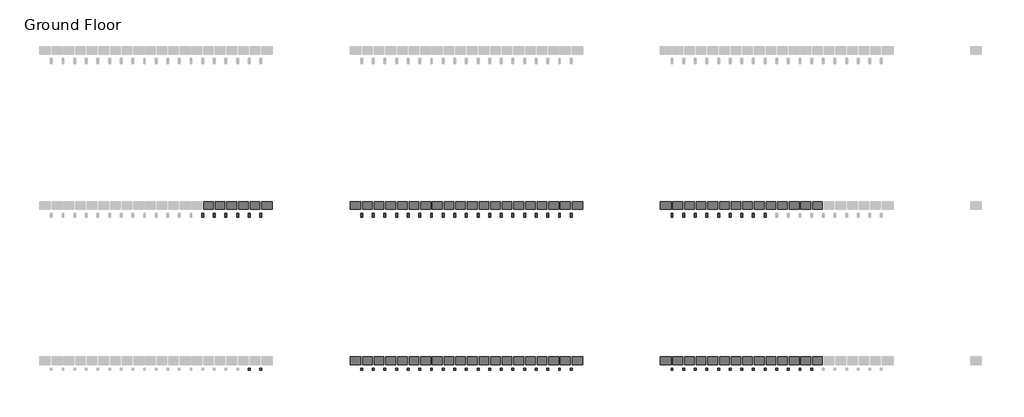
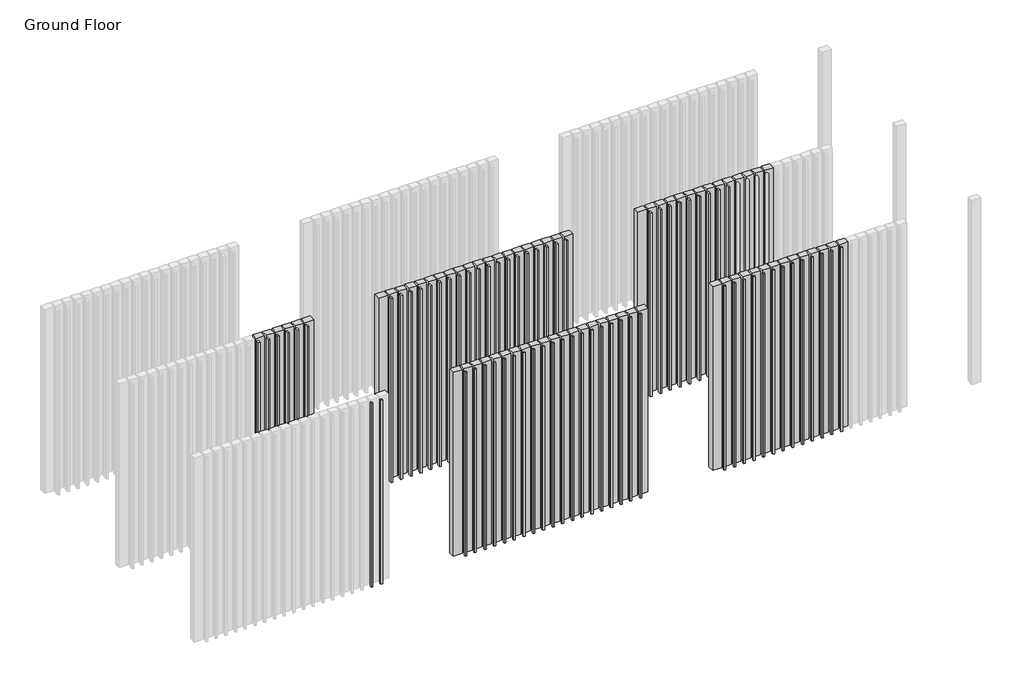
# One storey, part 2 of 350: 74 plates, 68 members.
"""IFC4 building model written with IfcOpenShell, lengths in millimetres."""

from ifc_helpers import new_model, si_unit, origin, place, context, project, spatial, transform, mapped, element, save
from components import rectangular_mullion_5535ef50, rectangular_mullion_ec047115, empty_system_panel_empty_db8e642d, empty_system_panel_empty_1b6afc67, empty_system_panel_empty_4d48d162

model = new_model("IFC4")

# Units and contexts
model_context = context("Model", 3, world=origin())
ifc_project = project(units=[si_unit("LENGTHUNIT", "METRE", prefix="MILLI")], contexts=[model_context])

# Site, building, storey
site = spatial("IfcSite", under=ifc_project)
building = spatial("IfcBuilding", under=site)
storey = spatial("IfcBuildingStorey", under=building, Name="Ground Floor", Elevation=0.0)

# Members
placement = place(None, origin())
rectangular_mullion_shape = rectangular_mullion_5535ef50(model_context)
element("IfcMember", 1, ObjectType="Rectangular Mullion : Batten_Aluminium_Modinex_AluBatten_25x50_Cedar", at=placement, inside=storey, context=model_context, shape_type="MappedRepresentation", body=[
    mapped(rectangular_mullion_shape, transform((8016.4361642, 6968.2978302, 0.0), x_axis=(1.0, 0.0, 0.0), y_axis=(0.0, -1.0, 0.0), z_axis=(0.0, 0.0, -1.0))),
])
element("IfcMember", 2, ObjectType="Rectangular Mullion : Batten_Aluminium_Modinex_AluBatten_25x50_Cedar", at=placement, inside=storey, context=model_context, shape_type="MappedRepresentation", body=[
    mapped(rectangular_mullion_shape, transform((8166.4361642, 6968.2978302, 0.0), x_axis=(1.0, 0.0, 0.0), y_axis=(0.0, -1.0, 0.0), z_axis=(0.0, 0.0, -1.0))),
])
element("IfcMember", 3, ObjectType="Rectangular Mullion : Batten_Aluminium_Modinex_AluBatten_25x50_Cedar", at=placement, inside=storey, context=model_context, shape_type="MappedRepresentation", body=[
    mapped(rectangular_mullion_shape, transform((8316.4361642, 6968.2978302, 0.0), x_axis=(1.0, 0.0, 0.0), y_axis=(0.0, -1.0, 0.0), z_axis=(0.0, 0.0, -1.0))),
])
element("IfcMember", 4, ObjectType="Rectangular Mullion : Batten_Aluminium_Modinex_AluBatten_25x50_Cedar", at=placement, inside=storey, context=model_context, shape_type="MappedRepresentation", body=[
    mapped(rectangular_mullion_shape, transform((8466.4361642, 6968.2978302, 0.0), x_axis=(1.0, 0.0, 0.0), y_axis=(0.0, -1.0, 0.0), z_axis=(0.0, 0.0, -1.0))),
])
element("IfcMember", 5, ObjectType="Rectangular Mullion : Batten_Aluminium_Modinex_AluBatten_25x50_Cedar", at=placement, inside=storey, context=model_context, shape_type="MappedRepresentation", body=[
    mapped(rectangular_mullion_shape, transform((8616.4361642, 6968.2978302, 0.0), x_axis=(1.0, 0.0, 0.0), y_axis=(0.0, -1.0, 0.0), z_axis=(0.0, 0.0, -1.0))),
])
element("IfcMember", 6, ObjectType="Rectangular Mullion : Batten_Aluminium_Modinex_AluBatten_25x50_Cedar", at=placement, inside=storey, context=model_context, shape_type="MappedRepresentation", body=[
    mapped(rectangular_mullion_shape, transform((8766.4361642, 6968.2978302, 0.0), x_axis=(1.0, 0.0, 0.0), y_axis=(0.0, -1.0, 0.0), z_axis=(0.0, 0.0, -1.0))),
])
rectangular_mullion_2_shape = rectangular_mullion_ec047115(model_context)
element("IfcMember", 7, ObjectType="Rectangular Mullion : Batten_Aluminium_Modinex_AluBatten_25x25_Cedar", at=placement, inside=storey, context=model_context, shape_type="MappedRepresentation", body=[
    mapped(rectangular_mullion_2_shape, transform((8616.4361642, 4968.2978302, 0.0), x_axis=(1.0, 0.0, 0.0), y_axis=(0.0, -1.0, 0.0), z_axis=(0.0, 0.0, -1.0))),
])
element("IfcMember", 8, ObjectType="Rectangular Mullion : Batten_Aluminium_Modinex_AluBatten_25x25_Cedar", at=placement, inside=storey, context=model_context, shape_type="MappedRepresentation", body=[
    mapped(rectangular_mullion_2_shape, transform((8766.4361642, 4968.2978302, 0.0), x_axis=(1.0, 0.0, 0.0), y_axis=(0.0, -1.0, 0.0), z_axis=(0.0, 0.0, -1.0))),
])
element("IfcMember", 9, ObjectType="Rectangular Mullion : Batten_Aluminium_Modinex_AluBatten_25x25_EnglishOak", at=placement, inside=storey, context=model_context, shape_type="MappedRepresentation", body=[
    mapped(rectangular_mullion_2_shape, transform((10066.4361642, 4968.2978302, 0.0), x_axis=(1.0, 0.0, 0.0), y_axis=(0.0, -1.0, 0.0), z_axis=(0.0, 0.0, -1.0))),
])
element("IfcMember", 10, ObjectType="Rectangular Mullion : Batten_Aluminium_Modinex_AluBatten_25x25_EnglishOak", at=placement, inside=storey, context=model_context, shape_type="MappedRepresentation", body=[
    mapped(rectangular_mullion_2_shape, transform((10216.4361642, 4968.2978302, 0.0), x_axis=(1.0, 0.0, 0.0), y_axis=(0.0, -1.0, 0.0), z_axis=(0.0, 0.0, -1.0))),
])
element("IfcMember", 11, ObjectType="Rectangular Mullion : Batten_Aluminium_Modinex_AluBatten_25x25_EnglishOak", at=placement, inside=storey, context=model_context, shape_type="MappedRepresentation", body=[
    mapped(rectangular_mullion_2_shape, transform((10366.4361642, 4968.2978302, 0.0), x_axis=(1.0, 0.0, 0.0), y_axis=(0.0, -1.0, 0.0), z_axis=(0.0, 0.0, -1.0))),
])
element("IfcMember", 12, ObjectType="Rectangular Mullion : Batten_Aluminium_Modinex_AluBatten_25x25_EnglishOak", at=placement, inside=storey, context=model_context, shape_type="MappedRepresentation", body=[
    mapped(rectangular_mullion_2_shape, transform((10516.4361642, 4968.2978302, 0.0), x_axis=(1.0, 0.0, 0.0), y_axis=(0.0, -1.0, 0.0), z_axis=(0.0, 0.0, -1.0))),
])
element("IfcMember", 13, ObjectType="Rectangular Mullion : Batten_Aluminium_Modinex_AluBatten_25x25_EnglishOak", at=placement, inside=storey, context=model_context, shape_type="MappedRepresentation", body=[
    mapped(rectangular_mullion_2_shape, transform((10666.4361642, 4968.2978302, 0.0), x_axis=(1.0, 0.0, 0.0), y_axis=(0.0, -1.0, 0.0), z_axis=(0.0, 0.0, -1.0))),
])
element("IfcMember", 14, ObjectType="Rectangular Mullion : Batten_Aluminium_Modinex_AluBatten_25x25_EnglishOak", at=placement, inside=storey, context=model_context, shape_type="MappedRepresentation", body=[
    mapped(rectangular_mullion_2_shape, transform((10816.4361642, 4968.2978302, 0.0), x_axis=(1.0, 0.0, 0.0), y_axis=(0.0, -1.0, 0.0), z_axis=(0.0, 0.0, -1.0))),
])
element("IfcMember", 15, ObjectType="Rectangular Mullion : Batten_Aluminium_Modinex_AluBatten_25x25_EnglishOak", at=placement, inside=storey, context=model_context, shape_type="MappedRepresentation", body=[
    mapped(rectangular_mullion_2_shape, transform((10966.4361642, 4968.2978302, 0.0), x_axis=(1.0, 0.0, 0.0), y_axis=(0.0, -1.0, 0.0), z_axis=(0.0, 0.0, -1.0))),
])
element("IfcMember", 16, ObjectType="Rectangular Mullion : Batten_Aluminium_Modinex_AluBatten_25x25_EnglishOak", at=placement, inside=storey, context=model_context, shape_type="MappedRepresentation", body=[
    mapped(rectangular_mullion_2_shape, transform((11116.4361642, 4968.2978302, 0.0), x_axis=(1.0, 0.0, 0.0), y_axis=(0.0, -1.0, 0.0), z_axis=(0.0, 0.0, -1.0))),
])
element("IfcMember", 17, ObjectType="Rectangular Mullion : Batten_Aluminium_Modinex_AluBatten_25x25_EnglishOak", at=placement, inside=storey, context=model_context, shape_type="MappedRepresentation", body=[
    mapped(rectangular_mullion_2_shape, transform((11266.4361642, 4968.2978302, 0.0), x_axis=(1.0, 0.0, 0.0), y_axis=(0.0, -1.0, 0.0), z_axis=(0.0, 0.0, -1.0))),
])
element("IfcMember", 18, ObjectType="Rectangular Mullion : Batten_Aluminium_Modinex_AluBatten_25x25_EnglishOak", at=placement, inside=storey, context=model_context, shape_type="MappedRepresentation", body=[
    mapped(rectangular_mullion_2_shape, transform((11416.4361642, 4968.2978302, 0.0), x_axis=(1.0, 0.0, 0.0), y_axis=(0.0, -1.0, 0.0), z_axis=(0.0, 0.0, -1.0))),
])
element("IfcMember", 19, ObjectType="Rectangular Mullion : Batten_Aluminium_Modinex_AluBatten_25x25_EnglishOak", at=placement, inside=storey, context=model_context, shape_type="MappedRepresentation", body=[
    mapped(rectangular_mullion_2_shape, transform((11566.4361642, 4968.2978302, 0.0), x_axis=(1.0, 0.0, 0.0), y_axis=(0.0, -1.0, 0.0), z_axis=(0.0, 0.0, -1.0))),
])
element("IfcMember", 20, ObjectType="Rectangular Mullion : Batten_Aluminium_Modinex_AluBatten_25x25_EnglishOak", at=placement, inside=storey, context=model_context, shape_type="MappedRepresentation", body=[
    mapped(rectangular_mullion_2_shape, transform((11716.4361642, 4968.2978302, 0.0), x_axis=(1.0, 0.0, 0.0), y_axis=(0.0, -1.0, 0.0), z_axis=(0.0, 0.0, -1.0))),
])
element("IfcMember", 21, ObjectType="Rectangular Mullion : Batten_Aluminium_Modinex_AluBatten_25x25_EnglishOak", at=placement, inside=storey, context=model_context, shape_type="MappedRepresentation", body=[
    mapped(rectangular_mullion_2_shape, transform((11866.4361642, 4968.2978302, 0.0), x_axis=(1.0, 0.0, 0.0), y_axis=(0.0, -1.0, 0.0), z_axis=(0.0, 0.0, -1.0))),
])
element("IfcMember", 22, ObjectType="Rectangular Mullion : Batten_Aluminium_Modinex_AluBatten_25x25_EnglishOak", at=placement, inside=storey, context=model_context, shape_type="MappedRepresentation", body=[
    mapped(rectangular_mullion_2_shape, transform((12016.4361642, 4968.2978302, 0.0), x_axis=(1.0, 0.0, 0.0), y_axis=(0.0, -1.0, 0.0), z_axis=(0.0, 0.0, -1.0))),
])
element("IfcMember", 23, ObjectType="Rectangular Mullion : Batten_Aluminium_Modinex_AluBatten_25x25_EnglishOak", at=placement, inside=storey, context=model_context, shape_type="MappedRepresentation", body=[
    mapped(rectangular_mullion_2_shape, transform((12166.4361642, 4968.2978302, 0.0), x_axis=(1.0, 0.0, 0.0), y_axis=(0.0, -1.0, 0.0), z_axis=(0.0, 0.0, -1.0))),
])
element("IfcMember", 24, ObjectType="Rectangular Mullion : Batten_Aluminium_Modinex_AluBatten_25x25_EnglishOak", at=placement, inside=storey, context=model_context, shape_type="MappedRepresentation", body=[
    mapped(rectangular_mullion_2_shape, transform((12316.4361642, 4968.2978302, 0.0), x_axis=(1.0, 0.0, 0.0), y_axis=(0.0, -1.0, 0.0), z_axis=(0.0, 0.0, -1.0))),
])
element("IfcMember", 25, ObjectType="Rectangular Mullion : Batten_Aluminium_Modinex_AluBatten_25x25_EnglishOak", at=placement, inside=storey, context=model_context, shape_type="MappedRepresentation", body=[
    mapped(rectangular_mullion_2_shape, transform((12466.4361642, 4968.2978302, 0.0), x_axis=(1.0, 0.0, 0.0), y_axis=(0.0, -1.0, 0.0), z_axis=(0.0, 0.0, -1.0))),
])
element("IfcMember", 26, ObjectType="Rectangular Mullion : Batten_Aluminium_Modinex_AluBatten_25x25_EnglishOak", at=placement, inside=storey, context=model_context, shape_type="MappedRepresentation", body=[
    mapped(rectangular_mullion_2_shape, transform((12616.4361642, 4968.2978302, 0.0), x_axis=(1.0, 0.0, 0.0), y_axis=(0.0, -1.0, 0.0), z_axis=(0.0, 0.0, -1.0))),
])
element("IfcMember", 27, ObjectType="Rectangular Mullion : Batten_Aluminium_Modinex_AluBatten_25x25_EnglishOak", at=placement, inside=storey, context=model_context, shape_type="MappedRepresentation", body=[
    mapped(rectangular_mullion_2_shape, transform((12766.4361642, 4968.2978302, 0.0), x_axis=(1.0, 0.0, 0.0), y_axis=(0.0, -1.0, 0.0), z_axis=(0.0, 0.0, -1.0))),
])
element("IfcMember", 28, ObjectType="Rectangular Mullion : Batten_Aluminium_Modinex_AluBatten_25x25_SpottedGum", at=placement, inside=storey, context=model_context, shape_type="MappedRepresentation", body=[
    mapped(rectangular_mullion_2_shape, transform((14066.4361642, 4968.2978302, 0.0), x_axis=(1.0, 0.0, 0.0), y_axis=(0.0, -1.0, 0.0), z_axis=(0.0, 0.0, -1.0))),
])
element("IfcMember", 29, ObjectType="Rectangular Mullion : Batten_Aluminium_Modinex_AluBatten_25x25_SpottedGum", at=placement, inside=storey, context=model_context, shape_type="MappedRepresentation", body=[
    mapped(rectangular_mullion_2_shape, transform((14216.4361642, 4968.2978302, 0.0), x_axis=(1.0, 0.0, 0.0), y_axis=(0.0, -1.0, 0.0), z_axis=(0.0, 0.0, -1.0))),
])
element("IfcMember", 30, ObjectType="Rectangular Mullion : Batten_Aluminium_Modinex_AluBatten_25x25_SpottedGum", at=placement, inside=storey, context=model_context, shape_type="MappedRepresentation", body=[
    mapped(rectangular_mullion_2_shape, transform((14366.4361642, 4968.2978302, 0.0), x_axis=(1.0, 0.0, 0.0), y_axis=(0.0, -1.0, 0.0), z_axis=(0.0, 0.0, -1.0))),
])
element("IfcMember", 31, ObjectType="Rectangular Mullion : Batten_Aluminium_Modinex_AluBatten_25x25_SpottedGum", at=placement, inside=storey, context=model_context, shape_type="MappedRepresentation", body=[
    mapped(rectangular_mullion_2_shape, transform((14516.4361642, 4968.2978302, 0.0), x_axis=(1.0, 0.0, 0.0), y_axis=(0.0, -1.0, 0.0), z_axis=(0.0, 0.0, -1.0))),
])
element("IfcMember", 32, ObjectType="Rectangular Mullion : Batten_Aluminium_Modinex_AluBatten_25x25_SpottedGum", at=placement, inside=storey, context=model_context, shape_type="MappedRepresentation", body=[
    mapped(rectangular_mullion_2_shape, transform((14666.4361642, 4968.2978302, 0.0), x_axis=(1.0, 0.0, 0.0), y_axis=(0.0, -1.0, 0.0), z_axis=(0.0, 0.0, -1.0))),
])
element("IfcMember", 33, ObjectType="Rectangular Mullion : Batten_Aluminium_Modinex_AluBatten_25x25_SpottedGum", at=placement, inside=storey, context=model_context, shape_type="MappedRepresentation", body=[
    mapped(rectangular_mullion_2_shape, transform((14816.4361642, 4968.2978302, 0.0), x_axis=(1.0, 0.0, 0.0), y_axis=(0.0, -1.0, 0.0), z_axis=(0.0, 0.0, -1.0))),
])
element("IfcMember", 34, ObjectType="Rectangular Mullion : Batten_Aluminium_Modinex_AluBatten_25x25_SpottedGum", at=placement, inside=storey, context=model_context, shape_type="MappedRepresentation", body=[
    mapped(rectangular_mullion_2_shape, transform((14966.4361642, 4968.2978302, 0.0), x_axis=(1.0, 0.0, 0.0), y_axis=(0.0, -1.0, 0.0), z_axis=(0.0, 0.0, -1.0))),
])
element("IfcMember", 35, ObjectType="Rectangular Mullion : Batten_Aluminium_Modinex_AluBatten_25x25_SpottedGum", at=placement, inside=storey, context=model_context, shape_type="MappedRepresentation", body=[
    mapped(rectangular_mullion_2_shape, transform((15116.4361642, 4968.2978302, 0.0), x_axis=(1.0, 0.0, 0.0), y_axis=(0.0, -1.0, 0.0), z_axis=(0.0, 0.0, -1.0))),
])
element("IfcMember", 36, ObjectType="Rectangular Mullion : Batten_Aluminium_Modinex_AluBatten_25x25_SpottedGum", at=placement, inside=storey, context=model_context, shape_type="MappedRepresentation", body=[
    mapped(rectangular_mullion_2_shape, transform((15266.4361642, 4968.2978302, 0.0), x_axis=(1.0, 0.0, 0.0), y_axis=(0.0, -1.0, 0.0), z_axis=(0.0, 0.0, -1.0))),
])
element("IfcMember", 37, ObjectType="Rectangular Mullion : Batten_Aluminium_Modinex_AluBatten_25x25_SpottedGum", at=placement, inside=storey, context=model_context, shape_type="MappedRepresentation", body=[
    mapped(rectangular_mullion_2_shape, transform((15416.4361642, 4968.2978302, 0.0), x_axis=(1.0, 0.0, 0.0), y_axis=(0.0, -1.0, 0.0), z_axis=(0.0, 0.0, -1.0))),
])
element("IfcMember", 38, ObjectType="Rectangular Mullion : Batten_Aluminium_Modinex_AluBatten_25x25_SpottedGum", at=placement, inside=storey, context=model_context, shape_type="MappedRepresentation", body=[
    mapped(rectangular_mullion_2_shape, transform((15566.4361642, 4968.2978302, 0.0), x_axis=(1.0, 0.0, 0.0), y_axis=(0.0, -1.0, 0.0), z_axis=(0.0, 0.0, -1.0))),
])
element("IfcMember", 39, ObjectType="Rectangular Mullion : Batten_Aluminium_Modinex_AluBatten_25x25_SpottedGum", at=placement, inside=storey, context=model_context, shape_type="MappedRepresentation", body=[
    mapped(rectangular_mullion_2_shape, transform((15716.4361642, 4968.2978302, 0.0), x_axis=(1.0, 0.0, 0.0), y_axis=(0.0, -1.0, 0.0), z_axis=(0.0, 0.0, -1.0))),
])
element("IfcMember", 40, ObjectType="Rectangular Mullion : Batten_Aluminium_Modinex_AluBatten_25x25_SpottedGum", at=placement, inside=storey, context=model_context, shape_type="MappedRepresentation", body=[
    mapped(rectangular_mullion_2_shape, transform((15866.4361642, 4968.2978302, 0.0), x_axis=(1.0, 0.0, 0.0), y_axis=(0.0, -1.0, 0.0), z_axis=(0.0, 0.0, -1.0))),
])
element("IfcMember", 41, ObjectType="Rectangular Mullion : Batten_Aluminium_Modinex_AluBatten_25x50_EnglishOak", at=placement, inside=storey, context=model_context, shape_type="MappedRepresentation", body=[
    mapped(rectangular_mullion_shape, transform((10066.4361642, 6968.2978302, 0.0), x_axis=(1.0, 0.0, 0.0), y_axis=(0.0, -1.0, 0.0), z_axis=(0.0, 0.0, -1.0))),
])
element("IfcMember", 42, ObjectType="Rectangular Mullion : Batten_Aluminium_Modinex_AluBatten_25x50_EnglishOak", at=placement, inside=storey, context=model_context, shape_type="MappedRepresentation", body=[
    mapped(rectangular_mullion_shape, transform((10216.4361642, 6968.2978302, 0.0), x_axis=(1.0, 0.0, 0.0), y_axis=(0.0, -1.0, 0.0), z_axis=(0.0, 0.0, -1.0))),
])
element("IfcMember", 43, ObjectType="Rectangular Mullion : Batten_Aluminium_Modinex_AluBatten_25x50_EnglishOak", at=placement, inside=storey, context=model_context, shape_type="MappedRepresentation", body=[
    mapped(rectangular_mullion_shape, transform((10366.4361642, 6968.2978302, 0.0), x_axis=(1.0, 0.0, 0.0), y_axis=(0.0, -1.0, 0.0), z_axis=(0.0, 0.0, -1.0))),
])
element("IfcMember", 44, ObjectType="Rectangular Mullion : Batten_Aluminium_Modinex_AluBatten_25x50_EnglishOak", at=placement, inside=storey, context=model_context, shape_type="MappedRepresentation", body=[
    mapped(rectangular_mullion_shape, transform((10516.4361642, 6968.2978302, 0.0), x_axis=(1.0, 0.0, 0.0), y_axis=(0.0, -1.0, 0.0), z_axis=(0.0, 0.0, -1.0))),
])
element("IfcMember", 45, ObjectType="Rectangular Mullion : Batten_Aluminium_Modinex_AluBatten_25x50_EnglishOak", at=placement, inside=storey, context=model_context, shape_type="MappedRepresentation", body=[
    mapped(rectangular_mullion_shape, transform((10666.4361642, 6968.2978302, 0.0), x_axis=(1.0, 0.0, 0.0), y_axis=(0.0, -1.0, 0.0), z_axis=(0.0, 0.0, -1.0))),
])
element("IfcMember", 46, ObjectType="Rectangular Mullion : Batten_Aluminium_Modinex_AluBatten_25x50_EnglishOak", at=placement, inside=storey, context=model_context, shape_type="MappedRepresentation", body=[
    mapped(rectangular_mullion_shape, transform((10816.4361642, 6968.2978302, 0.0), x_axis=(1.0, 0.0, 0.0), y_axis=(0.0, -1.0, 0.0), z_axis=(0.0, 0.0, -1.0))),
])
element("IfcMember", 47, ObjectType="Rectangular Mullion : Batten_Aluminium_Modinex_AluBatten_25x50_EnglishOak", at=placement, inside=storey, context=model_context, shape_type="MappedRepresentation", body=[
    mapped(rectangular_mullion_shape, transform((10966.4361642, 6968.2978302, 0.0), x_axis=(1.0, 0.0, 0.0), y_axis=(0.0, -1.0, 0.0), z_axis=(0.0, 0.0, -1.0))),
])
element("IfcMember", 48, ObjectType="Rectangular Mullion : Batten_Aluminium_Modinex_AluBatten_25x50_EnglishOak", at=placement, inside=storey, context=model_context, shape_type="MappedRepresentation", body=[
    mapped(rectangular_mullion_shape, transform((11116.4361642, 6968.2978302, 0.0), x_axis=(1.0, 0.0, 0.0), y_axis=(0.0, -1.0, 0.0), z_axis=(0.0, 0.0, -1.0))),
])
element("IfcMember", 49, ObjectType="Rectangular Mullion : Batten_Aluminium_Modinex_AluBatten_25x50_EnglishOak", at=placement, inside=storey, context=model_context, shape_type="MappedRepresentation", body=[
    mapped(rectangular_mullion_shape, transform((11266.4361642, 6968.2978302, 0.0), x_axis=(1.0, 0.0, 0.0), y_axis=(0.0, -1.0, 0.0), z_axis=(0.0, 0.0, -1.0))),
])
element("IfcMember", 50, ObjectType="Rectangular Mullion : Batten_Aluminium_Modinex_AluBatten_25x50_EnglishOak", at=placement, inside=storey, context=model_context, shape_type="MappedRepresentation", body=[
    mapped(rectangular_mullion_shape, transform((11416.4361642, 6968.2978302, 0.0), x_axis=(1.0, 0.0, 0.0), y_axis=(0.0, -1.0, 0.0), z_axis=(0.0, 0.0, -1.0))),
])
element("IfcMember", 51, ObjectType="Rectangular Mullion : Batten_Aluminium_Modinex_AluBatten_25x50_EnglishOak", at=placement, inside=storey, context=model_context, shape_type="MappedRepresentation", body=[
    mapped(rectangular_mullion_shape, transform((11566.4361642, 6968.2978302, 0.0), x_axis=(1.0, 0.0, 0.0), y_axis=(0.0, -1.0, 0.0), z_axis=(0.0, 0.0, -1.0))),
])
element("IfcMember", 52, ObjectType="Rectangular Mullion : Batten_Aluminium_Modinex_AluBatten_25x50_EnglishOak", at=placement, inside=storey, context=model_context, shape_type="MappedRepresentation", body=[
    mapped(rectangular_mullion_shape, transform((11716.4361642, 6968.2978302, 0.0), x_axis=(1.0, 0.0, 0.0), y_axis=(0.0, -1.0, 0.0), z_axis=(0.0, 0.0, -1.0))),
])
element("IfcMember", 53, ObjectType="Rectangular Mullion : Batten_Aluminium_Modinex_AluBatten_25x50_EnglishOak", at=placement, inside=storey, context=model_context, shape_type="MappedRepresentation", body=[
    mapped(rectangular_mullion_shape, transform((11866.4361642, 6968.2978302, 0.0), x_axis=(1.0, 0.0, 0.0), y_axis=(0.0, -1.0, 0.0), z_axis=(0.0, 0.0, -1.0))),
])
element("IfcMember", 54, ObjectType="Rectangular Mullion : Batten_Aluminium_Modinex_AluBatten_25x50_EnglishOak", at=placement, inside=storey, context=model_context, shape_type="MappedRepresentation", body=[
    mapped(rectangular_mullion_shape, transform((12016.4361642, 6968.2978302, 0.0), x_axis=(1.0, 0.0, 0.0), y_axis=(0.0, -1.0, 0.0), z_axis=(0.0, 0.0, -1.0))),
])
element("IfcMember", 55, ObjectType="Rectangular Mullion : Batten_Aluminium_Modinex_AluBatten_25x50_EnglishOak", at=placement, inside=storey, context=model_context, shape_type="MappedRepresentation", body=[
    mapped(rectangular_mullion_shape, transform((12166.4361642, 6968.2978302, 0.0), x_axis=(1.0, 0.0, 0.0), y_axis=(0.0, -1.0, 0.0), z_axis=(0.0, 0.0, -1.0))),
])
element("IfcMember", 56, ObjectType="Rectangular Mullion : Batten_Aluminium_Modinex_AluBatten_25x50_EnglishOak", at=placement, inside=storey, context=model_context, shape_type="MappedRepresentation", body=[
    mapped(rectangular_mullion_shape, transform((12316.4361642, 6968.2978302, 0.0), x_axis=(1.0, 0.0, 0.0), y_axis=(0.0, -1.0, 0.0), z_axis=(0.0, 0.0, -1.0))),
])
element("IfcMember", 57, ObjectType="Rectangular Mullion : Batten_Aluminium_Modinex_AluBatten_25x50_EnglishOak", at=placement, inside=storey, context=model_context, shape_type="MappedRepresentation", body=[
    mapped(rectangular_mullion_shape, transform((12466.4361642, 6968.2978302, 0.0), x_axis=(1.0, 0.0, 0.0), y_axis=(0.0, -1.0, 0.0), z_axis=(0.0, 0.0, -1.0))),
])
element("IfcMember", 58, ObjectType="Rectangular Mullion : Batten_Aluminium_Modinex_AluBatten_25x50_EnglishOak", at=placement, inside=storey, context=model_context, shape_type="MappedRepresentation", body=[
    mapped(rectangular_mullion_shape, transform((12616.4361642, 6968.2978302, 0.0), x_axis=(1.0, 0.0, 0.0), y_axis=(0.0, -1.0, 0.0), z_axis=(0.0, 0.0, -1.0))),
])
element("IfcMember", 59, ObjectType="Rectangular Mullion : Batten_Aluminium_Modinex_AluBatten_25x50_EnglishOak", at=placement, inside=storey, context=model_context, shape_type="MappedRepresentation", body=[
    mapped(rectangular_mullion_shape, transform((12766.4361642, 6968.2978302, 0.0), x_axis=(1.0, 0.0, 0.0), y_axis=(0.0, -1.0, 0.0), z_axis=(0.0, 0.0, -1.0))),
])
element("IfcMember", 60, ObjectType="Rectangular Mullion : Batten_Aluminium_Modinex_AluBatten_25x50_SpottedGum", at=placement, inside=storey, context=model_context, shape_type="MappedRepresentation", body=[
    mapped(rectangular_mullion_shape, transform((14066.4361642, 6968.2978302, 0.0), x_axis=(1.0, 0.0, 0.0), y_axis=(0.0, -1.0, 0.0), z_axis=(0.0, 0.0, -1.0))),
])
element("IfcMember", 61, ObjectType="Rectangular Mullion : Batten_Aluminium_Modinex_AluBatten_25x50_SpottedGum", at=placement, inside=storey, context=model_context, shape_type="MappedRepresentation", body=[
    mapped(rectangular_mullion_shape, transform((14216.4361642, 6968.2978302, 0.0), x_axis=(1.0, 0.0, 0.0), y_axis=(0.0, -1.0, 0.0), z_axis=(0.0, 0.0, -1.0))),
])
element("IfcMember", 62, ObjectType="Rectangular Mullion : Batten_Aluminium_Modinex_AluBatten_25x50_SpottedGum", at=placement, inside=storey, context=model_context, shape_type="MappedRepresentation", body=[
    mapped(rectangular_mullion_shape, transform((14366.4361642, 6968.2978302, 0.0), x_axis=(1.0, 0.0, 0.0), y_axis=(0.0, -1.0, 0.0), z_axis=(0.0, 0.0, -1.0))),
])
element("IfcMember", 63, ObjectType="Rectangular Mullion : Batten_Aluminium_Modinex_AluBatten_25x50_SpottedGum", at=placement, inside=storey, context=model_context, shape_type="MappedRepresentation", body=[
    mapped(rectangular_mullion_shape, transform((14516.4361642, 6968.2978302, 0.0), x_axis=(1.0, 0.0, 0.0), y_axis=(0.0, -1.0, 0.0), z_axis=(0.0, 0.0, -1.0))),
])
element("IfcMember", 64, ObjectType="Rectangular Mullion : Batten_Aluminium_Modinex_AluBatten_25x50_SpottedGum", at=placement, inside=storey, context=model_context, shape_type="MappedRepresentation", body=[
    mapped(rectangular_mullion_shape, transform((14666.4361642, 6968.2978302, 0.0), x_axis=(1.0, 0.0, 0.0), y_axis=(0.0, -1.0, 0.0), z_axis=(0.0, 0.0, -1.0))),
])
element("IfcMember", 65, ObjectType="Rectangular Mullion : Batten_Aluminium_Modinex_AluBatten_25x50_SpottedGum", at=placement, inside=storey, context=model_context, shape_type="MappedRepresentation", body=[
    mapped(rectangular_mullion_shape, transform((14816.4361642, 6968.2978302, 0.0), x_axis=(1.0, 0.0, 0.0), y_axis=(0.0, -1.0, 0.0), z_axis=(0.0, 0.0, -1.0))),
])
element("IfcMember", 66, ObjectType="Rectangular Mullion : Batten_Aluminium_Modinex_AluBatten_25x50_SpottedGum", at=placement, inside=storey, context=model_context, shape_type="MappedRepresentation", body=[
    mapped(rectangular_mullion_shape, transform((14966.4361642, 6968.2978302, 0.0), x_axis=(1.0, 0.0, 0.0), y_axis=(0.0, -1.0, 0.0), z_axis=(0.0, 0.0, -1.0))),
])
element("IfcMember", 67, ObjectType="Rectangular Mullion : Batten_Aluminium_Modinex_AluBatten_25x50_SpottedGum", at=placement, inside=storey, context=model_context, shape_type="MappedRepresentation", body=[
    mapped(rectangular_mullion_shape, transform((15116.4361642, 6968.2978302, 0.0), x_axis=(1.0, 0.0, 0.0), y_axis=(0.0, -1.0, 0.0), z_axis=(0.0, 0.0, -1.0))),
])
element("IfcMember", 68, ObjectType="Rectangular Mullion : Batten_Aluminium_Modinex_AluBatten_25x50_SpottedGum", at=placement, inside=storey, context=model_context, shape_type="MappedRepresentation", body=[
    mapped(rectangular_mullion_shape, transform((15266.4361642, 6968.2978302, 0.0), x_axis=(1.0, 0.0, 0.0), y_axis=(0.0, -1.0, 0.0), z_axis=(0.0, 0.0, -1.0))),
])

# Plates
empty_system_panel_empty_shape = empty_system_panel_empty_db8e642d(model_context)
element("IfcPlate", 69, ObjectType="Empty System Panel : Empty", at=placement, inside=storey, context=model_context, shape_type="MappedRepresentation", body=[
    mapped(empty_system_panel_empty_shape, transform((9985.1861641, 4968.2978302, 0.0), x_axis=(1.0, 0.0, 0.0), y_axis=(0.0, 1.0, 0.0), z_axis=(0.0, 0.0, 1.0))),
])
element("IfcPlate", 70, ObjectType="Empty System Panel : Empty", at=placement, inside=storey, context=model_context, shape_type="MappedRepresentation", body=[
    mapped(empty_system_panel_empty_shape, transform((13985.1861641, 4968.2978302, 0.0), x_axis=(1.0, 0.0, 0.0), y_axis=(0.0, 1.0, 0.0), z_axis=(0.0, 0.0, 1.0))),
])
element("IfcPlate", 71, ObjectType="Empty System Panel : Empty", at=placement, inside=storey, context=model_context, shape_type="MappedRepresentation", body=[
    mapped(empty_system_panel_empty_shape, transform((9985.1861641, 6968.2978302, 0.0), x_axis=(1.0, 0.0, 0.0), y_axis=(0.0, 1.0, 0.0), z_axis=(0.0, 0.0, 1.0))),
])
element("IfcPlate", 72, ObjectType="Empty System Panel : Empty", at=placement, inside=storey, context=model_context, shape_type="MappedRepresentation", body=[
    mapped(empty_system_panel_empty_shape, transform((13985.1861641, 6968.2978302, 0.0), x_axis=(1.0, 0.0, 0.0), y_axis=(0.0, 1.0, 0.0), z_axis=(0.0, 0.0, 1.0))),
])
empty_system_panel_empty_2_shape = empty_system_panel_empty_1b6afc67(model_context)
element("IfcPlate", 73, ObjectType="Empty System Panel : Empty", at=placement, inside=storey, context=model_context, shape_type="MappedRepresentation", body=[
    mapped(empty_system_panel_empty_2_shape, transform((10141.4361642, 4968.2978302, 0.0), x_axis=(1.0, 0.0, 0.0), y_axis=(0.0, 1.0, 0.0), z_axis=(0.0, 0.0, 1.0))),
])
element("IfcPlate", 74, ObjectType="Empty System Panel : Empty", at=placement, inside=storey, context=model_context, shape_type="MappedRepresentation", body=[
    mapped(empty_system_panel_empty_2_shape, transform((10291.4361642, 4968.2978302, 0.0), x_axis=(1.0, 0.0, 0.0), y_axis=(0.0, 1.0, 0.0), z_axis=(0.0, 0.0, 1.0))),
])
element("IfcPlate", 75, ObjectType="Empty System Panel : Empty", at=placement, inside=storey, context=model_context, shape_type="MappedRepresentation", body=[
    mapped(empty_system_panel_empty_2_shape, transform((10441.4361642, 4968.2978302, 0.0), x_axis=(1.0, 0.0, 0.0), y_axis=(0.0, 1.0, 0.0), z_axis=(0.0, 0.0, 1.0))),
])
element("IfcPlate", 76, ObjectType="Empty System Panel : Empty", at=placement, inside=storey, context=model_context, shape_type="MappedRepresentation", body=[
    mapped(empty_system_panel_empty_2_shape, transform((10591.4361642, 4968.2978302, 0.0), x_axis=(1.0, 0.0, 0.0), y_axis=(0.0, 1.0, 0.0), z_axis=(0.0, 0.0, 1.0))),
])
element("IfcPlate", 77, ObjectType="Empty System Panel : Empty", at=placement, inside=storey, context=model_context, shape_type="MappedRepresentation", body=[
    mapped(empty_system_panel_empty_2_shape, transform((10741.4361642, 4968.2978302, 0.0), x_axis=(1.0, 0.0, 0.0), y_axis=(0.0, 1.0, 0.0), z_axis=(0.0, 0.0, 1.0))),
])
element("IfcPlate", 78, ObjectType="Empty System Panel : Empty", at=placement, inside=storey, context=model_context, shape_type="MappedRepresentation", body=[
    mapped(empty_system_panel_empty_2_shape, transform((10891.4361642, 4968.2978302, 0.0), x_axis=(1.0, 0.0, 0.0), y_axis=(0.0, 1.0, 0.0), z_axis=(0.0, 0.0, 1.0))),
])
element("IfcPlate", 79, ObjectType="Empty System Panel : Empty", at=placement, inside=storey, context=model_context, shape_type="MappedRepresentation", body=[
    mapped(empty_system_panel_empty_2_shape, transform((11041.4361642, 4968.2978302, 0.0), x_axis=(1.0, 0.0, 0.0), y_axis=(0.0, 1.0, 0.0), z_axis=(0.0, 0.0, 1.0))),
])
element("IfcPlate", 80, ObjectType="Empty System Panel : Empty", at=placement, inside=storey, context=model_context, shape_type="MappedRepresentation", body=[
    mapped(empty_system_panel_empty_2_shape, transform((11191.4361642, 4968.2978302, 0.0), x_axis=(1.0, 0.0, 0.0), y_axis=(0.0, 1.0, 0.0), z_axis=(0.0, 0.0, 1.0))),
])
element("IfcPlate", 81, ObjectType="Empty System Panel : Empty", at=placement, inside=storey, context=model_context, shape_type="MappedRepresentation", body=[
    mapped(empty_system_panel_empty_2_shape, transform((11341.4361642, 4968.2978302, 0.0), x_axis=(1.0, 0.0, 0.0), y_axis=(0.0, 1.0, 0.0), z_axis=(0.0, 0.0, 1.0))),
])
element("IfcPlate", 82, ObjectType="Empty System Panel : Empty", at=placement, inside=storey, context=model_context, shape_type="MappedRepresentation", body=[
    mapped(empty_system_panel_empty_2_shape, transform((11491.4361642, 4968.2978302, 0.0), x_axis=(1.0, 0.0, 0.0), y_axis=(0.0, 1.0, 0.0), z_axis=(0.0, 0.0, 1.0))),
])
element("IfcPlate", 83, ObjectType="Empty System Panel : Empty", at=placement, inside=storey, context=model_context, shape_type="MappedRepresentation", body=[
    mapped(empty_system_panel_empty_2_shape, transform((11641.4361642, 4968.2978302, 0.0), x_axis=(1.0, 0.0, 0.0), y_axis=(0.0, 1.0, 0.0), z_axis=(0.0, 0.0, 1.0))),
])
element("IfcPlate", 84, ObjectType="Empty System Panel : Empty", at=placement, inside=storey, context=model_context, shape_type="MappedRepresentation", body=[
    mapped(empty_system_panel_empty_2_shape, transform((11791.4361642, 4968.2978302, 0.0), x_axis=(1.0, 0.0, 0.0), y_axis=(0.0, 1.0, 0.0), z_axis=(0.0, 0.0, 1.0))),
])
element("IfcPlate", 85, ObjectType="Empty System Panel : Empty", at=placement, inside=storey, context=model_context, shape_type="MappedRepresentation", body=[
    mapped(empty_system_panel_empty_2_shape, transform((11941.4361642, 4968.2978302, 0.0), x_axis=(1.0, 0.0, 0.0), y_axis=(0.0, 1.0, 0.0), z_axis=(0.0, 0.0, 1.0))),
])
element("IfcPlate", 86, ObjectType="Empty System Panel : Empty", at=placement, inside=storey, context=model_context, shape_type="MappedRepresentation", body=[
    mapped(empty_system_panel_empty_2_shape, transform((12091.4361642, 4968.2978302, 0.0), x_axis=(1.0, 0.0, 0.0), y_axis=(0.0, 1.0, 0.0), z_axis=(0.0, 0.0, 1.0))),
])
element("IfcPlate", 87, ObjectType="Empty System Panel : Empty", at=placement, inside=storey, context=model_context, shape_type="MappedRepresentation", body=[
    mapped(empty_system_panel_empty_2_shape, transform((12241.4361642, 4968.2978302, 0.0), x_axis=(1.0, 0.0, 0.0), y_axis=(0.0, 1.0, 0.0), z_axis=(0.0, 0.0, 1.0))),
])
element("IfcPlate", 88, ObjectType="Empty System Panel : Empty", at=placement, inside=storey, context=model_context, shape_type="MappedRepresentation", body=[
    mapped(empty_system_panel_empty_2_shape, transform((12391.4361642, 4968.2978302, 0.0), x_axis=(1.0, 0.0, 0.0), y_axis=(0.0, 1.0, 0.0), z_axis=(0.0, 0.0, 1.0))),
])
element("IfcPlate", 89, ObjectType="Empty System Panel : Empty", at=placement, inside=storey, context=model_context, shape_type="MappedRepresentation", body=[
    mapped(empty_system_panel_empty_2_shape, transform((12541.4361642, 4968.2978302, 0.0), x_axis=(1.0, 0.0, 0.0), y_axis=(0.0, 1.0, 0.0), z_axis=(0.0, 0.0, 1.0))),
])
element("IfcPlate", 90, ObjectType="Empty System Panel : Empty", at=placement, inside=storey, context=model_context, shape_type="MappedRepresentation", body=[
    mapped(empty_system_panel_empty_2_shape, transform((12691.4361642, 4968.2978302, 0.0), x_axis=(1.0, 0.0, 0.0), y_axis=(0.0, 1.0, 0.0), z_axis=(0.0, 0.0, 1.0))),
])
element("IfcPlate", 91, ObjectType="Empty System Panel : Empty", at=placement, inside=storey, context=model_context, shape_type="MappedRepresentation", body=[
    mapped(empty_system_panel_empty_2_shape, transform((14141.4361642, 4968.2978302, 0.0), x_axis=(1.0, 0.0, 0.0), y_axis=(0.0, 1.0, 0.0), z_axis=(0.0, 0.0, 1.0))),
])
element("IfcPlate", 92, ObjectType="Empty System Panel : Empty", at=placement, inside=storey, context=model_context, shape_type="MappedRepresentation", body=[
    mapped(empty_system_panel_empty_2_shape, transform((14291.4361642, 4968.2978302, 0.0), x_axis=(1.0, 0.0, 0.0), y_axis=(0.0, 1.0, 0.0), z_axis=(0.0, 0.0, 1.0))),
])
element("IfcPlate", 93, ObjectType="Empty System Panel : Empty", at=placement, inside=storey, context=model_context, shape_type="MappedRepresentation", body=[
    mapped(empty_system_panel_empty_2_shape, transform((14441.4361642, 4968.2978302, 0.0), x_axis=(1.0, 0.0, 0.0), y_axis=(0.0, 1.0, 0.0), z_axis=(0.0, 0.0, 1.0))),
])
element("IfcPlate", 94, ObjectType="Empty System Panel : Empty", at=placement, inside=storey, context=model_context, shape_type="MappedRepresentation", body=[
    mapped(empty_system_panel_empty_2_shape, transform((14591.4361642, 4968.2978302, 0.0), x_axis=(1.0, 0.0, 0.0), y_axis=(0.0, 1.0, 0.0), z_axis=(0.0, 0.0, 1.0))),
])
element("IfcPlate", 95, ObjectType="Empty System Panel : Empty", at=placement, inside=storey, context=model_context, shape_type="MappedRepresentation", body=[
    mapped(empty_system_panel_empty_2_shape, transform((14741.4361642, 4968.2978302, 0.0), x_axis=(1.0, 0.0, 0.0), y_axis=(0.0, 1.0, 0.0), z_axis=(0.0, 0.0, 1.0))),
])
element("IfcPlate", 96, ObjectType="Empty System Panel : Empty", at=placement, inside=storey, context=model_context, shape_type="MappedRepresentation", body=[
    mapped(empty_system_panel_empty_2_shape, transform((14891.4361642, 4968.2978302, 0.0), x_axis=(1.0, 0.0, 0.0), y_axis=(0.0, 1.0, 0.0), z_axis=(0.0, 0.0, 1.0))),
])
element("IfcPlate", 97, ObjectType="Empty System Panel : Empty", at=placement, inside=storey, context=model_context, shape_type="MappedRepresentation", body=[
    mapped(empty_system_panel_empty_2_shape, transform((15041.4361642, 4968.2978302, 0.0), x_axis=(1.0, 0.0, 0.0), y_axis=(0.0, 1.0, 0.0), z_axis=(0.0, 0.0, 1.0))),
])
element("IfcPlate", 98, ObjectType="Empty System Panel : Empty", at=placement, inside=storey, context=model_context, shape_type="MappedRepresentation", body=[
    mapped(empty_system_panel_empty_2_shape, transform((15191.4361642, 4968.2978302, 0.0), x_axis=(1.0, 0.0, 0.0), y_axis=(0.0, 1.0, 0.0), z_axis=(0.0, 0.0, 1.0))),
])
element("IfcPlate", 99, ObjectType="Empty System Panel : Empty", at=placement, inside=storey, context=model_context, shape_type="MappedRepresentation", body=[
    mapped(empty_system_panel_empty_2_shape, transform((15341.4361642, 4968.2978302, 0.0), x_axis=(1.0, 0.0, 0.0), y_axis=(0.0, 1.0, 0.0), z_axis=(0.0, 0.0, 1.0))),
])
element("IfcPlate", 100, ObjectType="Empty System Panel : Empty", at=placement, inside=storey, context=model_context, shape_type="MappedRepresentation", body=[
    mapped(empty_system_panel_empty_2_shape, transform((15491.4361642, 4968.2978302, 0.0), x_axis=(1.0, 0.0, 0.0), y_axis=(0.0, 1.0, 0.0), z_axis=(0.0, 0.0, 1.0))),
])
element("IfcPlate", 101, ObjectType="Empty System Panel : Empty", at=placement, inside=storey, context=model_context, shape_type="MappedRepresentation", body=[
    mapped(empty_system_panel_empty_2_shape, transform((15641.4361642, 4968.2978302, 0.0), x_axis=(1.0, 0.0, 0.0), y_axis=(0.0, 1.0, 0.0), z_axis=(0.0, 0.0, 1.0))),
])
element("IfcPlate", 102, ObjectType="Empty System Panel : Empty", at=placement, inside=storey, context=model_context, shape_type="MappedRepresentation", body=[
    mapped(empty_system_panel_empty_2_shape, transform((15791.4361642, 4968.2978302, 0.0), x_axis=(1.0, 0.0, 0.0), y_axis=(0.0, 1.0, 0.0), z_axis=(0.0, 0.0, 1.0))),
])
element("IfcPlate", 103, ObjectType="Empty System Panel : Empty", at=placement, inside=storey, context=model_context, shape_type="MappedRepresentation", body=[
    mapped(empty_system_panel_empty_2_shape, transform((15941.4361642, 4968.2978302, 0.0), x_axis=(1.0, 0.0, 0.0), y_axis=(0.0, 1.0, 0.0), z_axis=(0.0, 0.0, 1.0))),
])
element("IfcPlate", 104, ObjectType="Empty System Panel : Empty", at=placement, inside=storey, context=model_context, shape_type="MappedRepresentation", body=[
    mapped(empty_system_panel_empty_2_shape, transform((8091.4361642, 6968.2978302, 0.0), x_axis=(1.0, 0.0, 0.0), y_axis=(0.0, 1.0, 0.0), z_axis=(0.0, 0.0, 1.0))),
])
element("IfcPlate", 105, ObjectType="Empty System Panel : Empty", at=placement, inside=storey, context=model_context, shape_type="MappedRepresentation", body=[
    mapped(empty_system_panel_empty_2_shape, transform((8241.4361642, 6968.2978302, 0.0), x_axis=(1.0, 0.0, 0.0), y_axis=(0.0, 1.0, 0.0), z_axis=(0.0, 0.0, 1.0))),
])
element("IfcPlate", 106, ObjectType="Empty System Panel : Empty", at=placement, inside=storey, context=model_context, shape_type="MappedRepresentation", body=[
    mapped(empty_system_panel_empty_2_shape, transform((8391.4361642, 6968.2978302, 0.0), x_axis=(1.0, 0.0, 0.0), y_axis=(0.0, 1.0, 0.0), z_axis=(0.0, 0.0, 1.0))),
])
element("IfcPlate", 107, ObjectType="Empty System Panel : Empty", at=placement, inside=storey, context=model_context, shape_type="MappedRepresentation", body=[
    mapped(empty_system_panel_empty_2_shape, transform((8541.4361642, 6968.2978302, 0.0), x_axis=(1.0, 0.0, 0.0), y_axis=(0.0, 1.0, 0.0), z_axis=(0.0, 0.0, 1.0))),
])
element("IfcPlate", 108, ObjectType="Empty System Panel : Empty", at=placement, inside=storey, context=model_context, shape_type="MappedRepresentation", body=[
    mapped(empty_system_panel_empty_2_shape, transform((8691.4361642, 6968.2978302, 0.0), x_axis=(1.0, 0.0, 0.0), y_axis=(0.0, 1.0, 0.0), z_axis=(0.0, 0.0, 1.0))),
])
element("IfcPlate", 109, ObjectType="Empty System Panel : Empty", at=placement, inside=storey, context=model_context, shape_type="MappedRepresentation", body=[
    mapped(empty_system_panel_empty_2_shape, transform((10141.4361642, 6968.2978302, 0.0), x_axis=(1.0, 0.0, 0.0), y_axis=(0.0, 1.0, 0.0), z_axis=(0.0, 0.0, 1.0))),
])
element("IfcPlate", 110, ObjectType="Empty System Panel : Empty", at=placement, inside=storey, context=model_context, shape_type="MappedRepresentation", body=[
    mapped(empty_system_panel_empty_2_shape, transform((10291.4361642, 6968.2978302, 0.0), x_axis=(1.0, 0.0, 0.0), y_axis=(0.0, 1.0, 0.0), z_axis=(0.0, 0.0, 1.0))),
])
element("IfcPlate", 111, ObjectType="Empty System Panel : Empty", at=placement, inside=storey, context=model_context, shape_type="MappedRepresentation", body=[
    mapped(empty_system_panel_empty_2_shape, transform((10441.4361642, 6968.2978302, 0.0), x_axis=(1.0, 0.0, 0.0), y_axis=(0.0, 1.0, 0.0), z_axis=(0.0, 0.0, 1.0))),
])
element("IfcPlate", 112, ObjectType="Empty System Panel : Empty", at=placement, inside=storey, context=model_context, shape_type="MappedRepresentation", body=[
    mapped(empty_system_panel_empty_2_shape, transform((10591.4361642, 6968.2978302, 0.0), x_axis=(1.0, 0.0, 0.0), y_axis=(0.0, 1.0, 0.0), z_axis=(0.0, 0.0, 1.0))),
])
element("IfcPlate", 113, ObjectType="Empty System Panel : Empty", at=placement, inside=storey, context=model_context, shape_type="MappedRepresentation", body=[
    mapped(empty_system_panel_empty_2_shape, transform((10741.4361642, 6968.2978302, 0.0), x_axis=(1.0, 0.0, 0.0), y_axis=(0.0, 1.0, 0.0), z_axis=(0.0, 0.0, 1.0))),
])
element("IfcPlate", 114, ObjectType="Empty System Panel : Empty", at=placement, inside=storey, context=model_context, shape_type="MappedRepresentation", body=[
    mapped(empty_system_panel_empty_2_shape, transform((10891.4361642, 6968.2978302, 0.0), x_axis=(1.0, 0.0, 0.0), y_axis=(0.0, 1.0, 0.0), z_axis=(0.0, 0.0, 1.0))),
])
element("IfcPlate", 115, ObjectType="Empty System Panel : Empty", at=placement, inside=storey, context=model_context, shape_type="MappedRepresentation", body=[
    mapped(empty_system_panel_empty_2_shape, transform((11041.4361642, 6968.2978302, 0.0), x_axis=(1.0, 0.0, 0.0), y_axis=(0.0, 1.0, 0.0), z_axis=(0.0, 0.0, 1.0))),
])
element("IfcPlate", 116, ObjectType="Empty System Panel : Empty", at=placement, inside=storey, context=model_context, shape_type="MappedRepresentation", body=[
    mapped(empty_system_panel_empty_2_shape, transform((11191.4361642, 6968.2978302, 0.0), x_axis=(1.0, 0.0, 0.0), y_axis=(0.0, 1.0, 0.0), z_axis=(0.0, 0.0, 1.0))),
])
element("IfcPlate", 117, ObjectType="Empty System Panel : Empty", at=placement, inside=storey, context=model_context, shape_type="MappedRepresentation", body=[
    mapped(empty_system_panel_empty_2_shape, transform((11341.4361642, 6968.2978302, 0.0), x_axis=(1.0, 0.0, 0.0), y_axis=(0.0, 1.0, 0.0), z_axis=(0.0, 0.0, 1.0))),
])
element("IfcPlate", 118, ObjectType="Empty System Panel : Empty", at=placement, inside=storey, context=model_context, shape_type="MappedRepresentation", body=[
    mapped(empty_system_panel_empty_2_shape, transform((11491.4361642, 6968.2978302, 0.0), x_axis=(1.0, 0.0, 0.0), y_axis=(0.0, 1.0, 0.0), z_axis=(0.0, 0.0, 1.0))),
])
element("IfcPlate", 119, ObjectType="Empty System Panel : Empty", at=placement, inside=storey, context=model_context, shape_type="MappedRepresentation", body=[
    mapped(empty_system_panel_empty_2_shape, transform((11641.4361642, 6968.2978302, 0.0), x_axis=(1.0, 0.0, 0.0), y_axis=(0.0, 1.0, 0.0), z_axis=(0.0, 0.0, 1.0))),
])
element("IfcPlate", 120, ObjectType="Empty System Panel : Empty", at=placement, inside=storey, context=model_context, shape_type="MappedRepresentation", body=[
    mapped(empty_system_panel_empty_2_shape, transform((11791.4361642, 6968.2978302, 0.0), x_axis=(1.0, 0.0, 0.0), y_axis=(0.0, 1.0, 0.0), z_axis=(0.0, 0.0, 1.0))),
])
element("IfcPlate", 121, ObjectType="Empty System Panel : Empty", at=placement, inside=storey, context=model_context, shape_type="MappedRepresentation", body=[
    mapped(empty_system_panel_empty_2_shape, transform((11941.4361642, 6968.2978302, 0.0), x_axis=(1.0, 0.0, 0.0), y_axis=(0.0, 1.0, 0.0), z_axis=(0.0, 0.0, 1.0))),
])
element("IfcPlate", 122, ObjectType="Empty System Panel : Empty", at=placement, inside=storey, context=model_context, shape_type="MappedRepresentation", body=[
    mapped(empty_system_panel_empty_2_shape, transform((12091.4361642, 6968.2978302, 0.0), x_axis=(1.0, 0.0, 0.0), y_axis=(0.0, 1.0, 0.0), z_axis=(0.0, 0.0, 1.0))),
])
element("IfcPlate", 123, ObjectType="Empty System Panel : Empty", at=placement, inside=storey, context=model_context, shape_type="MappedRepresentation", body=[
    mapped(empty_system_panel_empty_2_shape, transform((12241.4361642, 6968.2978302, 0.0), x_axis=(1.0, 0.0, 0.0), y_axis=(0.0, 1.0, 0.0), z_axis=(0.0, 0.0, 1.0))),
])
element("IfcPlate", 124, ObjectType="Empty System Panel : Empty", at=placement, inside=storey, context=model_context, shape_type="MappedRepresentation", body=[
    mapped(empty_system_panel_empty_2_shape, transform((12391.4361642, 6968.2978302, 0.0), x_axis=(1.0, 0.0, 0.0), y_axis=(0.0, 1.0, 0.0), z_axis=(0.0, 0.0, 1.0))),
])
element("IfcPlate", 125, ObjectType="Empty System Panel : Empty", at=placement, inside=storey, context=model_context, shape_type="MappedRepresentation", body=[
    mapped(empty_system_panel_empty_2_shape, transform((12541.4361642, 6968.2978302, 0.0), x_axis=(1.0, 0.0, 0.0), y_axis=(0.0, 1.0, 0.0), z_axis=(0.0, 0.0, 1.0))),
])
element("IfcPlate", 126, ObjectType="Empty System Panel : Empty", at=placement, inside=storey, context=model_context, shape_type="MappedRepresentation", body=[
    mapped(empty_system_panel_empty_2_shape, transform((12691.4361642, 6968.2978302, 0.0), x_axis=(1.0, 0.0, 0.0), y_axis=(0.0, 1.0, 0.0), z_axis=(0.0, 0.0, 1.0))),
])
element("IfcPlate", 127, ObjectType="Empty System Panel : Empty", at=placement, inside=storey, context=model_context, shape_type="MappedRepresentation", body=[
    mapped(empty_system_panel_empty_2_shape, transform((14141.4361642, 6968.2978302, 0.0), x_axis=(1.0, 0.0, 0.0), y_axis=(0.0, 1.0, 0.0), z_axis=(0.0, 0.0, 1.0))),
])
element("IfcPlate", 128, ObjectType="Empty System Panel : Empty", at=placement, inside=storey, context=model_context, shape_type="MappedRepresentation", body=[
    mapped(empty_system_panel_empty_2_shape, transform((14291.4361642, 6968.2978302, 0.0), x_axis=(1.0, 0.0, 0.0), y_axis=(0.0, 1.0, 0.0), z_axis=(0.0, 0.0, 1.0))),
])
element("IfcPlate", 129, ObjectType="Empty System Panel : Empty", at=placement, inside=storey, context=model_context, shape_type="MappedRepresentation", body=[
    mapped(empty_system_panel_empty_2_shape, transform((14441.4361642, 6968.2978302, 0.0), x_axis=(1.0, 0.0, 0.0), y_axis=(0.0, 1.0, 0.0), z_axis=(0.0, 0.0, 1.0))),
])
element("IfcPlate", 130, ObjectType="Empty System Panel : Empty", at=placement, inside=storey, context=model_context, shape_type="MappedRepresentation", body=[
    mapped(empty_system_panel_empty_2_shape, transform((14591.4361642, 6968.2978302, 0.0), x_axis=(1.0, 0.0, 0.0), y_axis=(0.0, 1.0, 0.0), z_axis=(0.0, 0.0, 1.0))),
])
element("IfcPlate", 131, ObjectType="Empty System Panel : Empty", at=placement, inside=storey, context=model_context, shape_type="MappedRepresentation", body=[
    mapped(empty_system_panel_empty_2_shape, transform((14741.4361642, 6968.2978302, 0.0), x_axis=(1.0, 0.0, 0.0), y_axis=(0.0, 1.0, 0.0), z_axis=(0.0, 0.0, 1.0))),
])
element("IfcPlate", 132, ObjectType="Empty System Panel : Empty", at=placement, inside=storey, context=model_context, shape_type="MappedRepresentation", body=[
    mapped(empty_system_panel_empty_2_shape, transform((14891.4361642, 6968.2978302, 0.0), x_axis=(1.0, 0.0, 0.0), y_axis=(0.0, 1.0, 0.0), z_axis=(0.0, 0.0, 1.0))),
])
element("IfcPlate", 133, ObjectType="Empty System Panel : Empty", at=placement, inside=storey, context=model_context, shape_type="MappedRepresentation", body=[
    mapped(empty_system_panel_empty_2_shape, transform((15041.4361642, 6968.2978302, 0.0), x_axis=(1.0, 0.0, 0.0), y_axis=(0.0, 1.0, 0.0), z_axis=(0.0, 0.0, 1.0))),
])
element("IfcPlate", 134, ObjectType="Empty System Panel : Empty", at=placement, inside=storey, context=model_context, shape_type="MappedRepresentation", body=[
    mapped(empty_system_panel_empty_2_shape, transform((15191.4361642, 6968.2978302, 0.0), x_axis=(1.0, 0.0, 0.0), y_axis=(0.0, 1.0, 0.0), z_axis=(0.0, 0.0, 1.0))),
])
element("IfcPlate", 135, ObjectType="Empty System Panel : Empty", at=placement, inside=storey, context=model_context, shape_type="MappedRepresentation", body=[
    mapped(empty_system_panel_empty_2_shape, transform((15341.4361642, 6968.2978302, 0.0), x_axis=(1.0, 0.0, 0.0), y_axis=(0.0, 1.0, 0.0), z_axis=(0.0, 0.0, 1.0))),
])
element("IfcPlate", 136, ObjectType="Empty System Panel : Empty", at=placement, inside=storey, context=model_context, shape_type="MappedRepresentation", body=[
    mapped(empty_system_panel_empty_2_shape, transform((15491.4361642, 6968.2978302, 0.0), x_axis=(1.0, 0.0, 0.0), y_axis=(0.0, 1.0, 0.0), z_axis=(0.0, 0.0, 1.0))),
])
element("IfcPlate", 137, ObjectType="Empty System Panel : Empty", at=placement, inside=storey, context=model_context, shape_type="MappedRepresentation", body=[
    mapped(empty_system_panel_empty_2_shape, transform((15641.4361642, 6968.2978302, 0.0), x_axis=(1.0, 0.0, 0.0), y_axis=(0.0, 1.0, 0.0), z_axis=(0.0, 0.0, 1.0))),
])
element("IfcPlate", 138, ObjectType="Empty System Panel : Empty", at=placement, inside=storey, context=model_context, shape_type="MappedRepresentation", body=[
    mapped(empty_system_panel_empty_2_shape, transform((15791.4361642, 6968.2978302, 0.0), x_axis=(1.0, 0.0, 0.0), y_axis=(0.0, 1.0, 0.0), z_axis=(0.0, 0.0, 1.0))),
])
element("IfcPlate", 139, ObjectType="Empty System Panel : Empty", at=placement, inside=storey, context=model_context, shape_type="MappedRepresentation", body=[
    mapped(empty_system_panel_empty_2_shape, transform((15941.4361642, 6968.2978302, 0.0), x_axis=(1.0, 0.0, 0.0), y_axis=(0.0, 1.0, 0.0), z_axis=(0.0, 0.0, 1.0))),
])
empty_system_panel_empty_3_shape = empty_system_panel_empty_4d48d162(model_context)
element("IfcPlate", 140, ObjectType="Empty System Panel : Empty", at=placement, inside=storey, context=model_context, shape_type="MappedRepresentation", body=[
    mapped(empty_system_panel_empty_3_shape, transform((12847.6861641, 4968.2978302, 0.0), x_axis=(1.0, 0.0, 0.0), y_axis=(0.0, 1.0, 0.0), z_axis=(0.0, 0.0, 1.0))),
])
element("IfcPlate", 141, ObjectType="Empty System Panel : Empty", at=placement, inside=storey, context=model_context, shape_type="MappedRepresentation", body=[
    mapped(empty_system_panel_empty_3_shape, transform((8847.6861641, 6968.2978302, 0.0), x_axis=(1.0, 0.0, 0.0), y_axis=(0.0, 1.0, 0.0), z_axis=(0.0, 0.0, 1.0))),
])
element("IfcPlate", 142, ObjectType="Empty System Panel : Empty", at=placement, inside=storey, context=model_context, shape_type="MappedRepresentation", body=[
    mapped(empty_system_panel_empty_3_shape, transform((12847.6861641, 6968.2978302, 0.0), x_axis=(1.0, 0.0, 0.0), y_axis=(0.0, 1.0, 0.0), z_axis=(0.0, 0.0, 1.0))),
])

save(model, "model.ifc")
